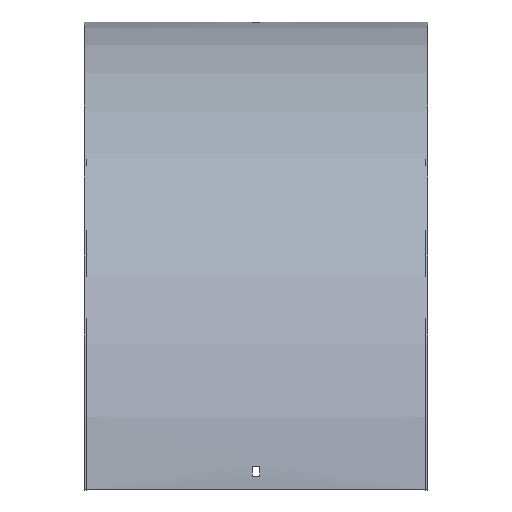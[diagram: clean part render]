
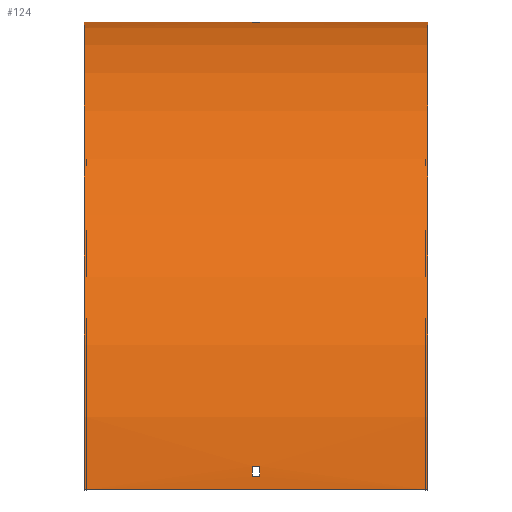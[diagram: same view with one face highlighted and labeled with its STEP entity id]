
A CAD part, top view. The second image highlights one B-rep face of the part: STEP entity #124.
In plain terms, the highlighted cylindrical face has radius 414 mm (diameter 828 mm), a partial arc.
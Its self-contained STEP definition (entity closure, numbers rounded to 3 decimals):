
#1 = ORIENTED_EDGE ( 'NONE', *, *, #358, .T. ) ;
#17 = CARTESIAN_POINT ( 'NONE',  ( 3.25, -0.174, 12. ) ) ;
#18 = CARTESIAN_POINT ( 'NONE',  ( 151.5, -0.174, 12. ) ) ;
#26 = DIRECTION ( 'NONE',  ( 0., 0., 1. ) ) ;
#28 = CARTESIAN_POINT ( 'NONE',  ( 151.5, -0.533, 21. ) ) ;
#33 = CIRCLE ( 'NONE', #341, 414. ) ;
#38 = LINE ( 'NONE', #459, #173 ) ;
#43 = VERTEX_POINT ( 'NONE', #576 ) ;
#45 = EDGE_CURVE ( 'NONE', #226, #314, #250, .T. ) ;
#46 = LINE ( 'NONE', #414, #215 ) ;
#47 = VERTEX_POINT ( 'NONE', #266 ) ;
#48 = DIRECTION ( 'NONE',  ( 0., 0., -1. ) ) ;
#53 = DIRECTION ( 'NONE',  ( 0., 0., -1. ) ) ;
#78 = DIRECTION ( 'NONE',  ( 0., 0., 1. ) ) ;
#79 = CARTESIAN_POINT ( 'NONE',  ( 151.5, -414., 0. ) ) ;
#90 = DIRECTION ( 'NONE',  ( -1., 0., 0. ) ) ;
#101 = CARTESIAN_POINT ( 'NONE',  ( 151.5, -393., 413.467 ) ) ;
#108 = VERTEX_POINT ( 'NONE', #505 ) ;
#115 = VERTEX_POINT ( 'NONE', #221 ) ;
#118 = CIRCLE ( 'NONE', #456, 414. ) ;
#124 = ADVANCED_FACE ( 'NONE', ( #599, #175, #490 ), #312, .T. ) ;
#127 = VECTOR ( 'NONE', #550, 1000. ) ;
#128 = VERTEX_POINT ( 'NONE', #584 ) ;
#139 = CARTESIAN_POINT ( 'NONE',  ( 151.5, -414., 0. ) ) ;
#140 = ORIENTED_EDGE ( 'NONE', *, *, #165, .F. ) ;
#142 = EDGE_LOOP ( 'NONE', ( #566, #1, #247, #472 ) ) ;
#159 = DIRECTION ( 'NONE',  ( 1., 0., 0. ) ) ;
#165 = EDGE_CURVE ( 'NONE', #185, #468, #38, .T. ) ;
#173 = VECTOR ( 'NONE', #222, 1000. ) ;
#175 = FACE_BOUND ( 'NONE', #142, .T. ) ;
#176 = VECTOR ( 'NONE', #203, 1000. ) ;
#178 = CARTESIAN_POINT ( 'NONE',  ( 3.25, -0.533, 21. ) ) ;
#185 = VERTEX_POINT ( 'NONE', #355 ) ;
#189 = VERTEX_POINT ( 'NONE', #178 ) ;
#203 = DIRECTION ( 'NONE',  ( 1., 0., 0. ) ) ;
#213 = DIRECTION ( 'NONE',  ( -1., 0., 0. ) ) ;
#215 = VECTOR ( 'NONE', #229, 1000. ) ;
#221 = CARTESIAN_POINT ( 'NONE',  ( -3.25, -402., 413.826 ) ) ;
#222 = DIRECTION ( 'NONE',  ( -1., 0., 0. ) ) ;
#224 = CIRCLE ( 'NONE', #569, 414. ) ;
#226 = VERTEX_POINT ( 'NONE', #476 ) ;
#227 = EDGE_CURVE ( 'NONE', #47, #185, #224, .T. ) ;
#228 = EDGE_LOOP ( 'NONE', ( #525, #391, #515, #317 ) ) ;
#229 = DIRECTION ( 'NONE',  ( 1., 0., 0. ) ) ;
#232 = AXIS2_PLACEMENT_3D ( 'NONE', #79, #90, #26 ) ;
#234 = EDGE_CURVE ( 'NONE', #43, #370, #326, .T. ) ;
#235 = CIRCLE ( 'NONE', #402, 414. ) ;
#241 = CARTESIAN_POINT ( 'NONE',  ( 3.25, -402., 413.826 ) ) ;
#247 = ORIENTED_EDGE ( 'NONE', *, *, #45, .T. ) ;
#250 = LINE ( 'NONE', #18, #176 ) ;
#264 = LINE ( 'NONE', #28, #127 ) ;
#266 = CARTESIAN_POINT ( 'NONE',  ( 151.5, 0., 0. ) ) ;
#269 = ORIENTED_EDGE ( 'NONE', *, *, #318, .T. ) ;
#283 = DIRECTION ( 'NONE',  ( 0., 0., -1. ) ) ;
#284 = DIRECTION ( 'NONE',  ( -1., 0., 0. ) ) ;
#312 = CYLINDRICAL_SURFACE ( 'NONE', #232, 414. ) ;
#314 = VERTEX_POINT ( 'NONE', #17 ) ;
#317 = ORIENTED_EDGE ( 'NONE', *, *, #431, .F. ) ;
#318 = EDGE_CURVE ( 'NONE', #47, #128, #446, .T. ) ;
#321 = ORIENTED_EDGE ( 'NONE', *, *, #227, .F. ) ;
#326 = LINE ( 'NONE', #101, #349 ) ;
#336 = EDGE_CURVE ( 'NONE', #343, #43, #350, .T. ) ;
#339 = DIRECTION ( 'NONE',  ( 0., 1., 0. ) ) ;
#341 = AXIS2_PLACEMENT_3D ( 'NONE', #580, #159, #283 ) ;
#343 = VERTEX_POINT ( 'NONE', #241 ) ;
#346 = DIRECTION ( 'NONE',  ( -1., 0., 0. ) ) ;
#349 = VECTOR ( 'NONE', #284, 1000. ) ;
#350 = CIRCLE ( 'NONE', #433, 414. ) ;
#355 = CARTESIAN_POINT ( 'NONE',  ( 151.5, -414., 414. ) ) ;
#358 = EDGE_CURVE ( 'NONE', #108, #226, #235, .T. ) ;
#370 = VERTEX_POINT ( 'NONE', #405 ) ;
#385 = CARTESIAN_POINT ( 'NONE',  ( 151.5, 0., 0. ) ) ;
#387 = CARTESIAN_POINT ( 'NONE',  ( -3.25, -414., 0. ) ) ;
#389 = AXIS2_PLACEMENT_3D ( 'NONE', #466, #517, #48 ) ;
#391 = ORIENTED_EDGE ( 'NONE', *, *, #234, .F. ) ;
#393 = CARTESIAN_POINT ( 'NONE',  ( 3.25, -414., 0. ) ) ;
#398 = EDGE_CURVE ( 'NONE', #314, #189, #481, .T. ) ;
#402 = AXIS2_PLACEMENT_3D ( 'NONE', #492, #213, #78 ) ;
#405 = CARTESIAN_POINT ( 'NONE',  ( -3.25, -393., 413.467 ) ) ;
#414 = CARTESIAN_POINT ( 'NONE',  ( 151.5, -402., 413.826 ) ) ;
#431 = EDGE_CURVE ( 'NONE', #115, #343, #46, .T. ) ;
#433 = AXIS2_PLACEMENT_3D ( 'NONE', #393, #346, #488 ) ;
#445 = DIRECTION ( 'NONE',  ( 1., 0., 0. ) ) ;
#446 = LINE ( 'NONE', #385, #455 ) ;
#455 = VECTOR ( 'NONE', #577, 1000. ) ;
#456 = AXIS2_PLACEMENT_3D ( 'NONE', #387, #445, #339 ) ;
#459 = CARTESIAN_POINT ( 'NONE',  ( 151.5, -414., 414. ) ) ;
#466 = CARTESIAN_POINT ( 'NONE',  ( 3.25, -414., 0. ) ) ;
#468 = VERTEX_POINT ( 'NONE', #506 ) ;
#472 = ORIENTED_EDGE ( 'NONE', *, *, #398, .T. ) ;
#476 = CARTESIAN_POINT ( 'NONE',  ( -3.25, -0.174, 12. ) ) ;
#479 = EDGE_LOOP ( 'NONE', ( #578, #140, #321, #269 ) ) ;
#481 = CIRCLE ( 'NONE', #389, 414. ) ;
#488 = DIRECTION ( 'NONE',  ( 0., 0., 1. ) ) ;
#490 = FACE_BOUND ( 'NONE', #228, .T. ) ;
#492 = CARTESIAN_POINT ( 'NONE',  ( -3.25, -414., 0. ) ) ;
#505 = CARTESIAN_POINT ( 'NONE',  ( -3.25, -0.533, 21. ) ) ;
#506 = CARTESIAN_POINT ( 'NONE',  ( -151.5, -414., 414. ) ) ;
#511 = EDGE_CURVE ( 'NONE', #370, #115, #118, .T. ) ;
#515 = ORIENTED_EDGE ( 'NONE', *, *, #336, .F. ) ;
#517 = DIRECTION ( 'NONE',  ( 1., 0., 0. ) ) ;
#525 = ORIENTED_EDGE ( 'NONE', *, *, #511, .F. ) ;
#539 = EDGE_CURVE ( 'NONE', #128, #468, #33, .T. ) ;
#550 = DIRECTION ( 'NONE',  ( -1., 0., 0. ) ) ;
#558 = EDGE_CURVE ( 'NONE', #189, #108, #264, .T. ) ;
#566 = ORIENTED_EDGE ( 'NONE', *, *, #558, .T. ) ;
#568 = DIRECTION ( 'NONE',  ( 1., 0., 0. ) ) ;
#569 = AXIS2_PLACEMENT_3D ( 'NONE', #139, #568, #53 ) ;
#576 = CARTESIAN_POINT ( 'NONE',  ( 3.25, -393., 413.467 ) ) ;
#577 = DIRECTION ( 'NONE',  ( -1., 0., 0. ) ) ;
#578 = ORIENTED_EDGE ( 'NONE', *, *, #539, .T. ) ;
#580 = CARTESIAN_POINT ( 'NONE',  ( -151.5, -414., 0. ) ) ;
#584 = CARTESIAN_POINT ( 'NONE',  ( -151.5, 0., 0. ) ) ;
#599 = FACE_OUTER_BOUND ( 'NONE', #479, .T. ) ;
